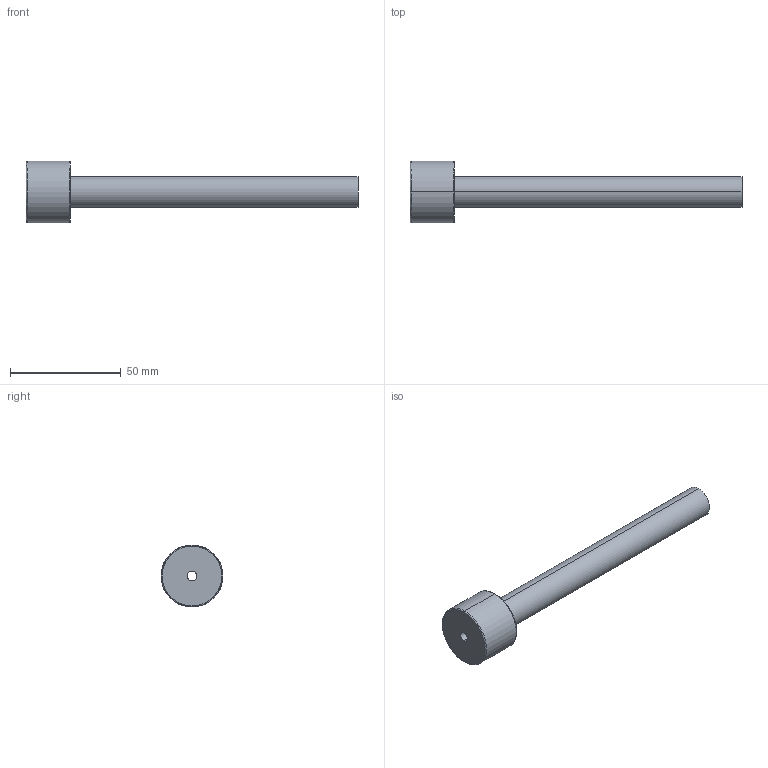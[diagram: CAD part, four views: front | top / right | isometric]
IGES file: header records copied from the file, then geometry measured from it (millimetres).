
Start section: START RECORD GO HERE.
Global section: file name: 367F-14X150.igs; native system: DASSAULT SYSTEMES CATIA V5 R20 - www.3ds.com; preprocessor: CATIA Version 5 Release 20 ; author: Utente; organization: NB04-ASUS; date: 20210324.165651; units: millimetre
Bounding box: 150 x 28 x 28 mm (x, y, z)
Surface area: 12418.6 mm2 (no closed solid volume)
Topology: 0 solids, 0 shells, 13 faces, 84 edges, 84 vertices
Faces by surface type: revolution 10, plane 3
